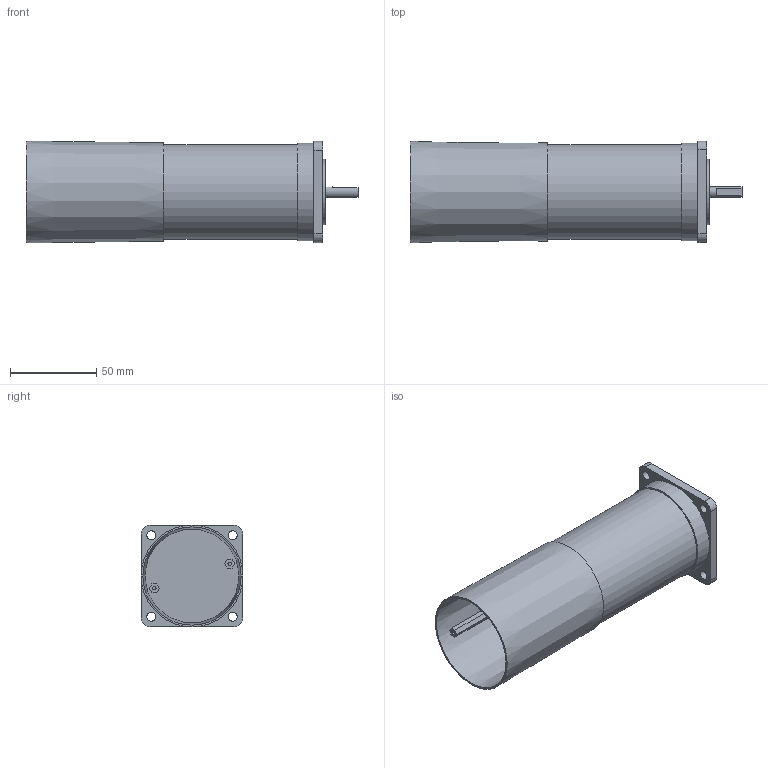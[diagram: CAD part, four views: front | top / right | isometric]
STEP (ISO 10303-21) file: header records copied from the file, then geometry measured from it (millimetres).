
FILE_DESCRIPTION( ( 'STEP AP203' ), '1' );
FILE_NAME( 'T:/CAD/JVL/2D_Mac050-141/MAC141-A1.stp', '2006-01-13T08:03:38', ( ' ' ), ( ' ' ), 'XStep 1.0', ' ', ' ' );
FILE_SCHEMA( ( 'CONFIG_CONTROL_DESIGN) ( )' ) );
Length unit declared in the file: metre
Products named in the file (1): 1
Bounding box: 192.57 x 59 x 59 mm (x, y, z)
Volume: 258662.5 mm3; surface area: 54396.6 mm2
Topology: 1 solids, 1 shells, 46 faces, 107 edges, 73 vertices
Faces by surface type: plane 30, cylinder 14, cone 2
Full cylindrical faces by diameter (mm): 2.013 x2, 5.2 x4, 6.35 x1, 38.1 x1, 55 x1, 56.7 x1
Entity records: 1270 total; most frequent: DIRECTION 216, CARTESIAN_POINT 203, ORIENTED_EDGE 178, EDGE_CURVE 89, AXIS2_PLACEMENT_3D 80, EDGE_LOOP 76, VERTEX_POINT 67, FACE_OUTER_BOUND 56
